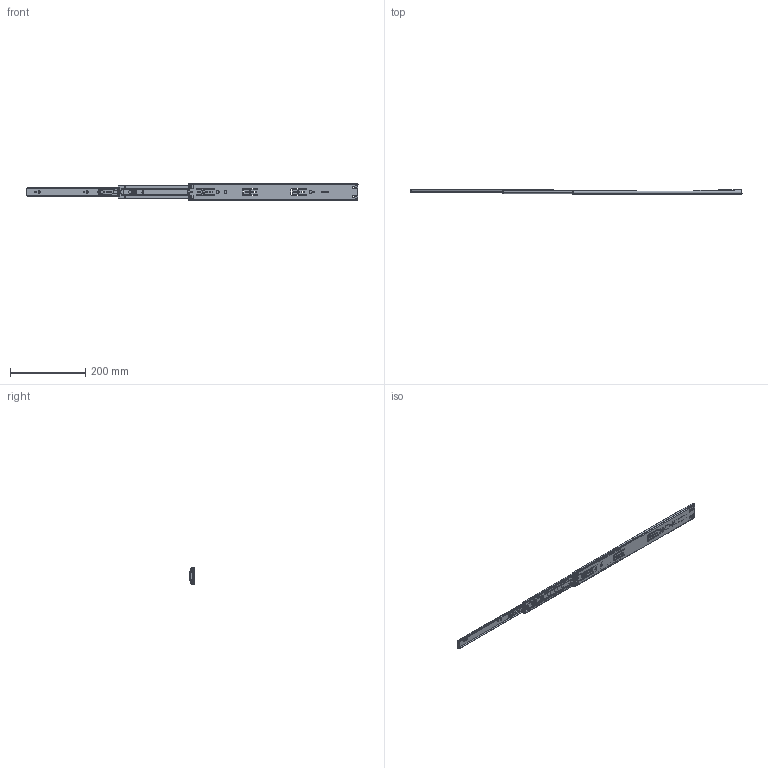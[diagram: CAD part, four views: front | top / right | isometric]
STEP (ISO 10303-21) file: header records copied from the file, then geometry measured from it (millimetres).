
FILE_DESCRIPTION(/* description */ (''),/* implementation_level */ '2;1');
FILE_NAME(/* name */ 'C:/Users/smeja/Desktop/PRACOVNÍ/3D KNIHOVNA MODELU/Strong kuličkové výsuvy s tlumením_3D/450 mm - 92004T.step',/* time_stamp */ '2019-06-11T10:30:30+02:00',/* author */ (''),/* organization */ (''),/* preprocessor_version */ 'ST-DEVELOPER v18',/* originating_system */ 'Autodesk Translation Framework v8.2.0.1029',/* authorisation */ '');
FILE_SCHEMA (('AUTOMOTIVE_DESIGN { 1 0 10303 214 3 1 1 }'));
Products named in the file (14): 450 mm - 92004T; 450 mm; 1; 2; ªoÀ£½w½Ä¦ÛÃö®
y¥»Åé_¹w³]; ªoÀ£½w½Ä¦ÛÃö®
y½w½Ä¶ô_¹w³]; 3; 4; 5; 6; 7; 8; 9; 10
Assembly tree (14 placements, depth 4):
  450 mm - 92004T
    450 mm
      1
      2
        ªoÀ£½w½Ä¦ÛÃö®
y¥»Åé_¹w³]
        ªoÀ£½w½Ä¦ÛÃö®
y½w½Ä¶ô_¹w³]
      3
      4  x2
      5
      6
      7
      8
      9
      10
Bounding box: 881.18 x 12.8 x 45.67 mm (x, y, z)
Volume: 93933.6 mm3; surface area: 154215.1 mm2
Topology: 50 solids, 50 shells, 2376 faces, 6535 edges, 4118 vertices
Faces by surface type: plane 1205, cylinder 725, sphere 193, torus 161, bspline 92
Full cylindrical faces by diameter (mm): 3.5 x2, 4.4 x4, 4.6 x5, 5 x6, 5.1 x14, 5.3 x2, 6.4 x3, 7 x2, 9 x1, 10.9 x6
Entity records: 87065 total; most frequent: CARTESIAN_POINT 27775, ORIENTED_EDGE 12490, DIRECTION 12302, EDGE_CURVE 6245, AXIS2_PLACEMENT_3D 4274, VERTEX_POINT 3994, LINE 3754, VECTOR 3754
